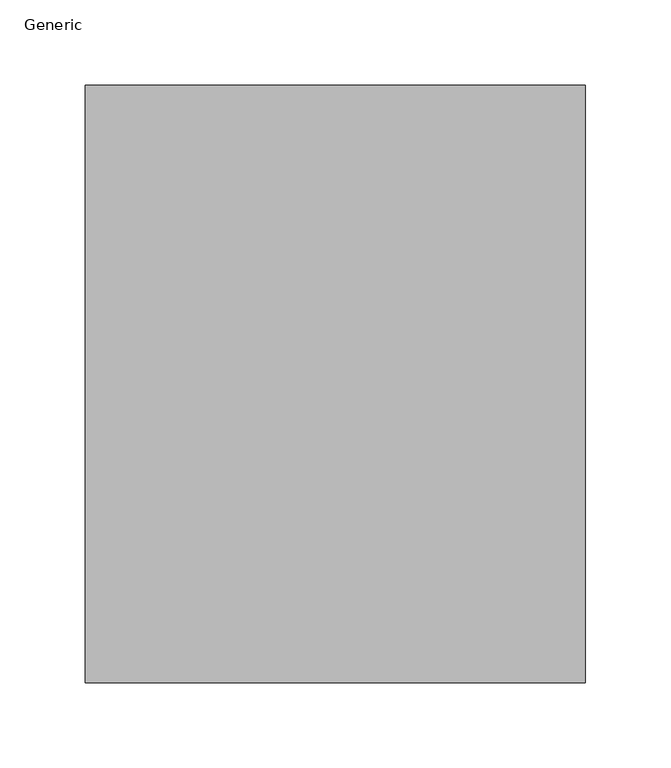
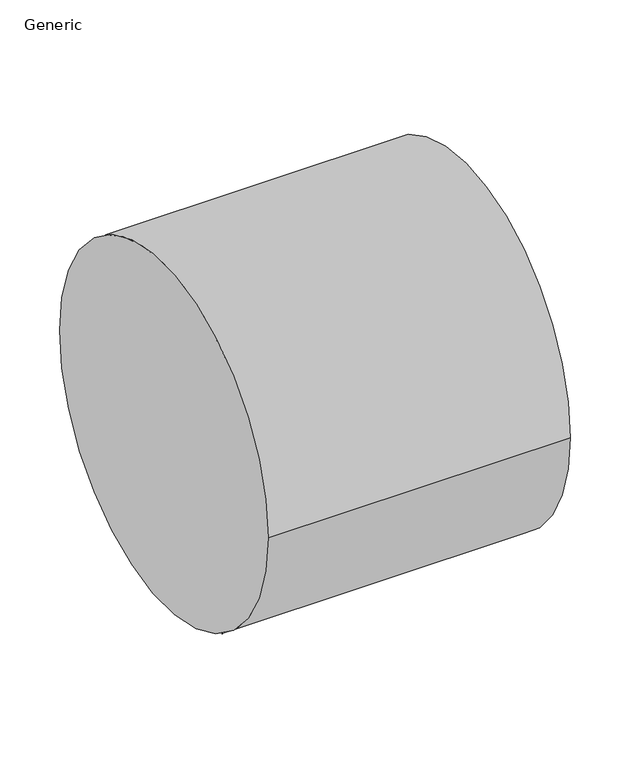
"""IFC4 building model written with IfcOpenShell, lengths in millimetres: proxy geometry, GM_Conduct : Generic."""

from ifc_helpers import new_model, si_unit, point, frame, frame_2d, origin, place, context, project, spatial, circle_curve, trimmed, segment, composite_curve, outline, extrude, source, transform, mapped, element, save


def generic_8c205b38(model_context):
    return source(origin(), model_context, "Body", "SweptSolid", [
        extrude(outline(composite_curve([segment(trimmed(circle_curve(frame_2d((0.0, 122.75)), 175.0), [point((-175.0, 122.75))], [point((175.0, 122.75))], False, "CARTESIAN"), True, "CONTINUOUS"), segment(trimmed(circle_curve(frame_2d((0.0, 122.75)), 175.0), [point((175.0, 122.75))], [point((-175.0, 122.75))], False, "CARTESIAN"), True, "CONTINUOUS")], self_intersect=False)), frame((0.0, 0.0, 0.0), z_axis=(1.0, 0.0, 0.0), x_axis=(0.0, 1.0, 0.0)), (0.0, 0.0, 1.0), 293.0),
    ])


if __name__ == "__main__":
    model = new_model("IFC4")
    model_context = context("Model", 3, world=origin())
    ifc_project = project(units=[si_unit("LENGTHUNIT", "METRE", prefix="MILLI")], contexts=[model_context])
    site = spatial("IfcSite", under=ifc_project)
    building = spatial("IfcBuilding", under=site)
    placement = place(None, origin())
    generic_shape = generic_8c205b38(model_context)
    element("IfcBuildingElementProxy", 1, Name="GM_Conduct : Generic", ObjectType="GM_Conduct : Generic", at=placement, inside=building, context=model_context, shape_type="MappedRepresentation", body=[
        mapped(generic_shape, transform((0.0, 0.0, 0.0), x_axis=(1.0, 0.0, 0.0), y_axis=(0.0, 1.0, 0.0), z_axis=(0.0, 0.0, 1.0))),
    ])
    save(model, "model.ifc")
